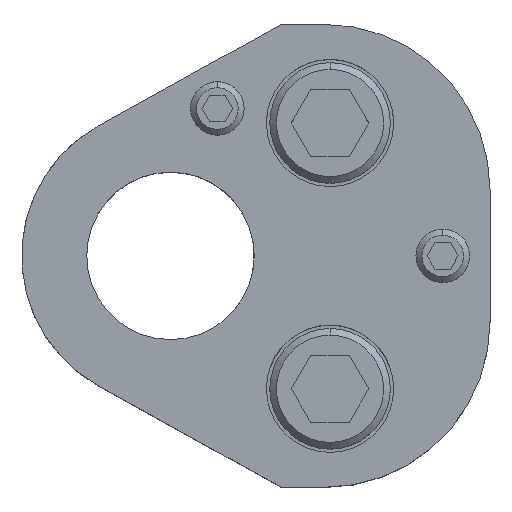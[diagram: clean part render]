
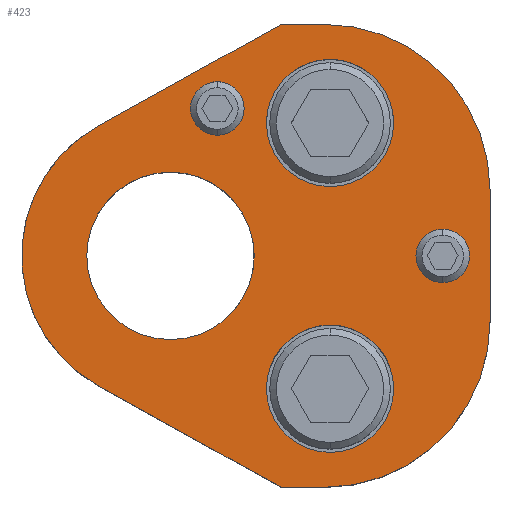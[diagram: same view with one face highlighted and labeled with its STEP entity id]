
A CAD part, top view. The second image highlights one B-rep face of the part: STEP entity #423.
In plain terms, the highlighted planar face has unit normal (0, 0, 1).
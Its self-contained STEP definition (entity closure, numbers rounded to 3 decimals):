
#198=FACE_BOUND('',#745,.T.);
#199=FACE_BOUND('',#746,.T.);
#200=FACE_BOUND('',#747,.T.);
#201=FACE_BOUND('',#748,.T.);
#202=FACE_BOUND('',#749,.T.);
#203=FACE_BOUND('',#750,.T.);
#273=CIRCLE('',#2391,24.7);
#275=CIRCLE('',#2395,24.7);
#277=CIRCLE('',#2400,4.);
#279=CIRCLE('',#2403,4.);
#281=CIRCLE('',#2406,4.);
#283=CIRCLE('',#2409,4.);
#293=CIRCLE('',#2424,22.2);
#294=CIRCLE('',#2425,9.5);
#295=CIRCLE('',#2426,9.5);
#296=CIRCLE('',#2427,9.5);
#297=CIRCLE('',#2428,9.5);
#298=CIRCLE('',#2429,12.5);
#299=CIRCLE('',#2430,12.5);
#423=ADVANCED_FACE('',(#198,#199,#200,#201,#202,#203),#519,.T.);
#519=PLANE('',#2431);
#745=EDGE_LOOP('',(#1122,#1123,#1124,#1125,#1126,#1127,#1128,#1129));
#746=EDGE_LOOP('',(#1130,#1131));
#747=EDGE_LOOP('',(#1132,#1133));
#748=EDGE_LOOP('',(#1134,#1135));
#749=EDGE_LOOP('',(#1136,#1137));
#750=EDGE_LOOP('',(#1138,#1139));
#1122=ORIENTED_EDGE('',*,*,#1797,.T.);
#1123=ORIENTED_EDGE('',*,*,#1755,.T.);
#1124=ORIENTED_EDGE('',*,*,#1759,.T.);
#1125=ORIENTED_EDGE('',*,*,#1762,.T.);
#1126=ORIENTED_EDGE('',*,*,#1765,.T.);
#1127=ORIENTED_EDGE('',*,*,#1768,.T.);
#1128=ORIENTED_EDGE('',*,*,#1771,.T.);
#1129=ORIENTED_EDGE('',*,*,#1798,.T.);
#1130=ORIENTED_EDGE('',*,*,#1799,.F.);
#1131=ORIENTED_EDGE('',*,*,#1800,.F.);
#1132=ORIENTED_EDGE('',*,*,#1801,.F.);
#1133=ORIENTED_EDGE('',*,*,#1802,.F.);
#1134=ORIENTED_EDGE('',*,*,#1783,.F.);
#1135=ORIENTED_EDGE('',*,*,#1779,.F.);
#1136=ORIENTED_EDGE('',*,*,#1777,.F.);
#1137=ORIENTED_EDGE('',*,*,#1773,.F.);
#1138=ORIENTED_EDGE('',*,*,#1803,.T.);
#1139=ORIENTED_EDGE('',*,*,#1804,.T.);
#1515=VERTEX_POINT('',#3551);
#1516=VERTEX_POINT('',#3553);
#1519=VERTEX_POINT('',#3560);
#1521=VERTEX_POINT('',#3566);
#1523=VERTEX_POINT('',#3572);
#1525=VERTEX_POINT('',#3578);
#1527=VERTEX_POINT('',#3584);
#1528=VERTEX_POINT('',#3589);
#1529=VERTEX_POINT('',#3590);
#1532=VERTEX_POINT('',#3601);
#1533=VERTEX_POINT('',#3602);
#1544=VERTEX_POINT('',#3637);
#1545=VERTEX_POINT('',#3640);
#1546=VERTEX_POINT('',#3641);
#1547=VERTEX_POINT('',#3644);
#1548=VERTEX_POINT('',#3645);
#1549=VERTEX_POINT('',#3648);
#1550=VERTEX_POINT('',#3649);
#1755=EDGE_CURVE('',#1516,#1515,#2010,.T.);
#1759=EDGE_CURVE('',#1515,#1519,#273,.T.);
#1762=EDGE_CURVE('',#1519,#1521,#2015,.T.);
#1765=EDGE_CURVE('',#1521,#1523,#275,.T.);
#1768=EDGE_CURVE('',#1523,#1525,#2019,.T.);
#1771=EDGE_CURVE('',#1525,#1527,#2022,.T.);
#1773=EDGE_CURVE('',#1528,#1529,#277,.T.);
#1777=EDGE_CURVE('',#1529,#1528,#279,.T.);
#1779=EDGE_CURVE('',#1532,#1533,#281,.T.);
#1783=EDGE_CURVE('',#1533,#1532,#283,.T.);
#1797=EDGE_CURVE('',#1544,#1516,#2032,.T.);
#1798=EDGE_CURVE('',#1527,#1544,#293,.T.);
#1799=EDGE_CURVE('',#1545,#1546,#294,.T.);
#1800=EDGE_CURVE('',#1546,#1545,#295,.T.);
#1801=EDGE_CURVE('',#1547,#1548,#296,.T.);
#1802=EDGE_CURVE('',#1548,#1547,#297,.T.);
#1803=EDGE_CURVE('',#1549,#1550,#298,.T.);
#1804=EDGE_CURVE('',#1550,#1549,#299,.T.);
#2010=LINE('',#3552,#2184);
#2015=LINE('',#3567,#2189);
#2019=LINE('',#3579,#2193);
#2022=LINE('',#3585,#2196);
#2032=LINE('',#3636,#2206);
#2184=VECTOR('',#2821,1.);
#2189=VECTOR('',#2834,1.);
#2193=VECTOR('',#2846,1.);
#2196=VECTOR('',#2851,1.);
#2206=VECTOR('',#2911,1.);
#2391=AXIS2_PLACEMENT_3D('',#3561,#2827,#2828);
#2395=AXIS2_PLACEMENT_3D('',#3573,#2839,#2840);
#2400=AXIS2_PLACEMENT_3D('',#3588,#2855,#2856);
#2403=AXIS2_PLACEMENT_3D('',#3597,#2863,#2864);
#2406=AXIS2_PLACEMENT_3D('',#3600,#2869,#2870);
#2409=AXIS2_PLACEMENT_3D('',#3609,#2877,#2878);
#2424=AXIS2_PLACEMENT_3D('',#3638,#2912,#2913);
#2425=AXIS2_PLACEMENT_3D('',#3639,#2914,#2915);
#2426=AXIS2_PLACEMENT_3D('',#3642,#2916,#2917);
#2427=AXIS2_PLACEMENT_3D('',#3643,#2918,#2919);
#2428=AXIS2_PLACEMENT_3D('',#3646,#2920,#2921);
#2429=AXIS2_PLACEMENT_3D('',#3647,#2922,#2923);
#2430=AXIS2_PLACEMENT_3D('',#3650,#2924,#2925);
#2431=AXIS2_PLACEMENT_3D('',#3651,#2926,#2927);
#2821=DIRECTION('',(1.,0.,0.));
#2827=DIRECTION('',(0.,0.,1.));
#2828=DIRECTION('',(-0.707,0.707,0.));
#2834=DIRECTION('',(0.,1.,0.));
#2839=DIRECTION('',(0.,0.,1.));
#2840=DIRECTION('',(-0.707,-0.707,0.));
#2846=DIRECTION('',(-1.,0.,0.));
#2851=DIRECTION('',(-0.875,-0.485,0.));
#2855=DIRECTION('',(0.,0.,1.));
#2856=DIRECTION('',(-1.,0.,0.));
#2863=DIRECTION('',(0.,0.,1.));
#2864=DIRECTION('',(1.,0.,0.));
#2869=DIRECTION('',(0.,0.,1.));
#2870=DIRECTION('',(-1.,0.,0.));
#2877=DIRECTION('',(0.,0.,1.));
#2878=DIRECTION('',(1.,0.,0.));
#2911=DIRECTION('',(0.875,-0.485,0.));
#2912=DIRECTION('',(0.,0.,1.));
#2913=DIRECTION('',(1.,0.,0.));
#2914=DIRECTION('',(0.,0.,1.));
#2915=DIRECTION('',(1.,0.,0.));
#2916=DIRECTION('',(0.,0.,1.));
#2917=DIRECTION('',(-1.,0.,0.));
#2918=DIRECTION('',(0.,0.,1.));
#2919=DIRECTION('',(1.,0.,0.));
#2920=DIRECTION('',(0.,0.,1.));
#2921=DIRECTION('',(-1.,0.,0.));
#2922=DIRECTION('',(0.,0.,-1.));
#2923=DIRECTION('',(-1.,0.,0.));
#2924=DIRECTION('',(0.,0.,-1.));
#2925=DIRECTION('',(1.,0.,0.));
#2926=DIRECTION('',(0.,0.,1.));
#2927=DIRECTION('',(-0.875,0.485,0.));
#3551=CARTESIAN_POINT('',(23.,-34.55,25.));
#3552=CARTESIAN_POINT('',(16.539,-34.55,25.));
#3553=CARTESIAN_POINT('',(16.539,-34.55,25.));
#3560=CARTESIAN_POINT('',(47.7,-9.85,25.));
#3561=CARTESIAN_POINT('',(23.,-9.85,25.));
#3566=CARTESIAN_POINT('',(47.7,9.85,25.));
#3567=CARTESIAN_POINT('',(47.7,9.85,25.));
#3572=CARTESIAN_POINT('',(23.,34.55,25.));
#3573=CARTESIAN_POINT('',(23.,9.85,25.));
#3578=CARTESIAN_POINT('',(16.539,34.55,25.));
#3579=CARTESIAN_POINT('',(16.539,34.55,25.));
#3584=CARTESIAN_POINT('',(-10.763,19.417,25.));
#3585=CARTESIAN_POINT('',(16.539,34.55,25.));
#3588=CARTESIAN_POINT('',(7.,22.,25.));
#3589=CARTESIAN_POINT('',(7.,18.,25.));
#3590=CARTESIAN_POINT('',(7.,26.,25.));
#3597=CARTESIAN_POINT('',(7.,22.,25.));
#3600=CARTESIAN_POINT('',(40.64,0.,25.));
#3601=CARTESIAN_POINT('',(40.64,-4.,25.));
#3602=CARTESIAN_POINT('',(40.64,4.,25.));
#3609=CARTESIAN_POINT('',(40.64,0.,25.));
#3636=CARTESIAN_POINT('',(16.539,-34.55,25.));
#3637=CARTESIAN_POINT('',(-10.763,-19.417,25.));
#3638=CARTESIAN_POINT('',(0.,0.,25.));
#3639=CARTESIAN_POINT('',(23.82,19.84,25.));
#3640=CARTESIAN_POINT('',(23.82,29.34,25.));
#3641=CARTESIAN_POINT('',(23.82,10.34,25.));
#3642=CARTESIAN_POINT('',(23.82,19.84,25.));
#3643=CARTESIAN_POINT('',(23.82,-19.84,25.));
#3644=CARTESIAN_POINT('',(23.82,-10.34,25.));
#3645=CARTESIAN_POINT('',(23.82,-29.34,25.));
#3646=CARTESIAN_POINT('',(23.82,-19.84,25.));
#3647=CARTESIAN_POINT('',(0.,0.,25.));
#3648=CARTESIAN_POINT('',(0.,12.5,25.));
#3649=CARTESIAN_POINT('',(0.,-12.5,25.));
#3650=CARTESIAN_POINT('',(0.,0.,25.));
#3651=CARTESIAN_POINT('',(-10.763,-19.417,25.));
